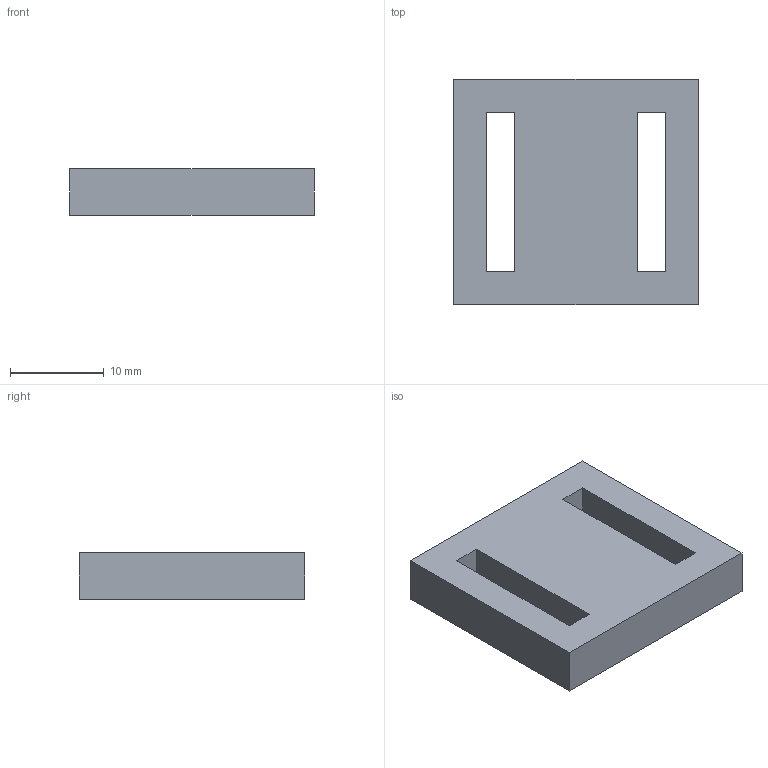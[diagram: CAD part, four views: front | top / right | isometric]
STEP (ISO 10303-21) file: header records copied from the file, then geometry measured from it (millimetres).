
FILE_DESCRIPTION(('Open CASCADE Model'),'2;1');
FILE_NAME('Open CASCADE Shape Model','2026-09-20T05:39:32',('Author'),( 'Open CASCADE'),'Open CASCADE STEP processor 7.9','Open CASCADE 7.9' ,'Unknown');
FILE_SCHEMA(('AUTOMOTIVE_DESIGN { 1 0 10303 214 1 1 1 1 }'));
Length unit declared in the file: millimetre
Products named in the file (1): Open CASCADE STEP translator 7.9 8
Bounding box: 26 x 24 x 5 mm (x, y, z)
Volume: 2610 mm3; surface area: 1944 mm2
Topology: 1 solids, 1 shells, 14 faces, 36 edges, 24 vertices
Faces by surface type: plane 14
Entity records: 874 total; most frequent: CARTESIAN_POINT 179, DIRECTION 106, LINE 76, VECTOR 76, ORIENTED_EDGE 72, PCURVE 72, DEFINITIONAL_REPRESENTATION 72, EDGE_CURVE 36
